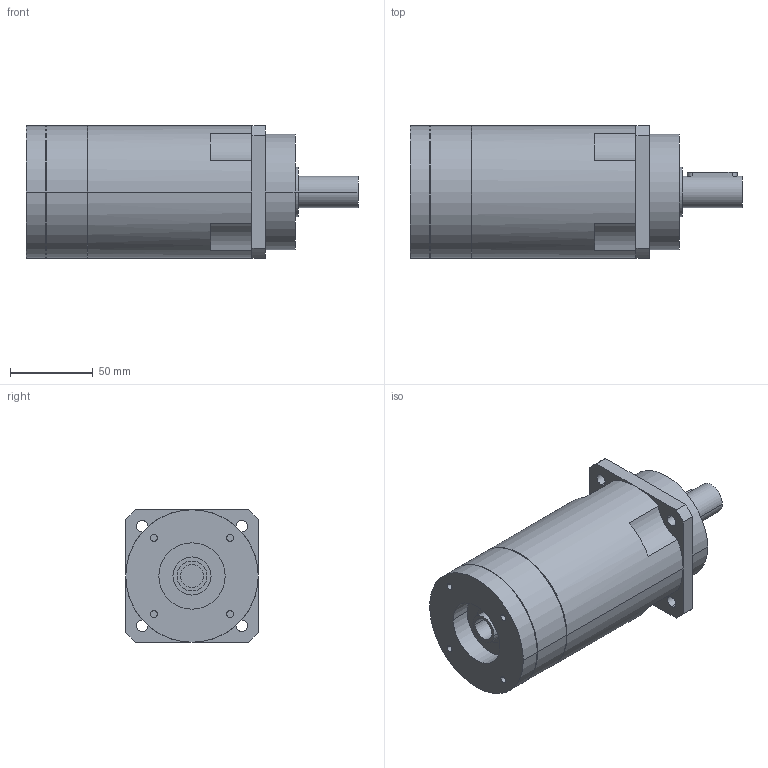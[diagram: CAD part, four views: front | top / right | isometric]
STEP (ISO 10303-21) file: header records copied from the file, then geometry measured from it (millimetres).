
FILE_DESCRIPTION(('CoCreate Modeling STEP Export'),'2;1');
FILE_NAME('GPR100_ig-48-64-80-100-120-144-180-216_19_B5_14_P26.stp','2014-08-26T11:54:48',(''),(''),'CoCreate Modeling STEP processor for AP214 (Solid Model)','CoCreate Modeling 16.00C 25-Feb-2009 (C) Parametric Technology GmbH','');
FILE_SCHEMA(('AUTOMOTIVE_DESIGN { 1 0 10303 214 1 1 1 1 }'));
Length unit declared in the file: millimetre
Products named in the file (2): GPR100_ig-48-64-80-100-120-144-180-216_19_B5_14_P26
Assembly tree (1 placements, depth 2):
  GPR100_ig-48-64-80-100-120-144-180-216_19_B5_14_P26
    GPR100_ig-48-64-80-100-120-144-180-216_19_B5_14_P26
Bounding box: 200.4 x 80 x 80 mm (x, y, z)
Volume: 789079.5 mm3; surface area: 61184.5 mm2
Topology: 1 solids, 1 shells, 84 faces, 216 edges, 146 vertices
Faces by surface type: cylinder 48, plane 30, cone 6
Entity records: 2299 total; most frequent: ORIENTED_EDGE 428, CARTESIAN_POINT 418, DIRECTION 336, EDGE_CURVE 214, VERTEX_POINT 146, AXIS2_PLACEMENT_3D 128, EDGE_LOOP 106, FACE_OUTER_BOUND 84
